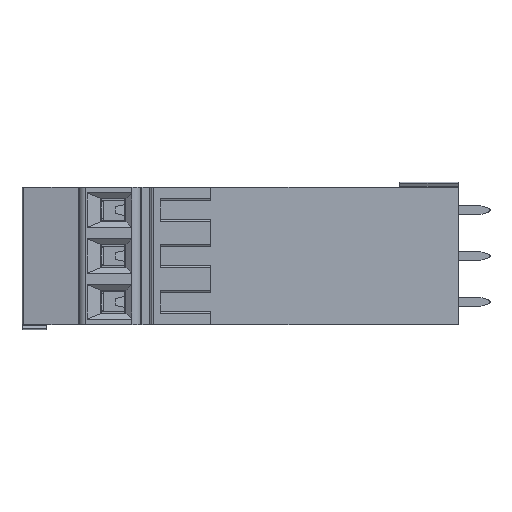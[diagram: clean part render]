
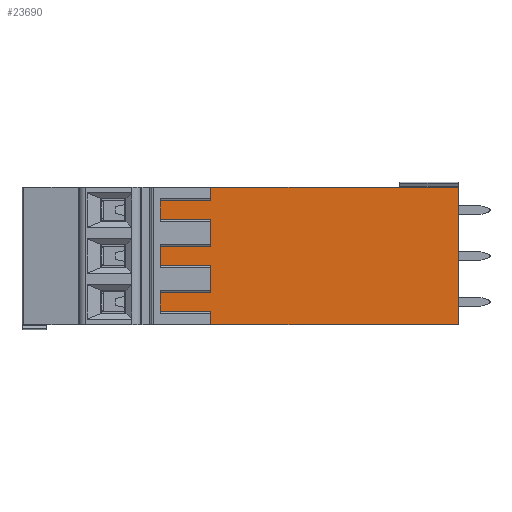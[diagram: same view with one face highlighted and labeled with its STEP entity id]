
A CAD part, left-side view. The second image highlights one B-rep face of the part: STEP entity #23690.
In plain terms, the highlighted planar face has unit normal (-1, 0, 0).
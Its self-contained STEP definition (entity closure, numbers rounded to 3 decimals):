
#1953=DIRECTION('',(0.,1.,0.));
#1954=VECTOR('',#1953,5.6);
#1955=CARTESIAN_POINT('',(1.,30.9,-5.655));
#1956=LINE('',#1955,#1954);
#1957=DIRECTION('',(0.,0.,-1.));
#1958=VECTOR('',#1957,1.165);
#1959=CARTESIAN_POINT('',(1.,30.9,-4.49));
#1960=LINE('',#1959,#1958);
#1961=DIRECTION('',(0.,1.,0.));
#1962=VECTOR('',#1961,27.4);
#1963=CARTESIAN_POINT('',(1.,3.5,-4.49));
#1964=LINE('',#1963,#1962);
#1965=DIRECTION('',(0.,0.,-1.));
#1966=VECTOR('',#1965,15.24);
#1967=CARTESIAN_POINT('',(1.,3.5,-4.49));
#1968=LINE('',#1967,#1966);
#1969=DIRECTION('',(0.,-1.,0.));
#1970=VECTOR('',#1969,27.4);
#1971=CARTESIAN_POINT('',(1.,30.9,-19.73));
#1972=LINE('',#1971,#1970);
#1986=DIRECTION('',(0.,0.,-1.));
#1987=VECTOR('',#1986,2.33);
#1988=CARTESIAN_POINT('',(1.,30.9,-8.405));
#1989=LINE('',#1988,#1987);
#13397=DIRECTION('',(0.,0.,1.));
#13398=VECTOR('',#13397,2.75);
#13399=CARTESIAN_POINT('',(1.,36.5,
-8.405));
#13400=LINE('',#13399,#13398);
#13413=DIRECTION('',(0.,1.,0.));
#13414=VECTOR('',#13413,5.6);
#13415=CARTESIAN_POINT('',(1.,30.9,
-8.405));
#13416=LINE('',#13415,#13414);
#13425=DIRECTION('',(0.,-1.,0.));
#13426=VECTOR('',#13425,5.6);
#13427=CARTESIAN_POINT('',(1.,36.5,-10.735));
#13428=LINE('',#13427,#13426);
#13447=DIRECTION('',(0.,0.,1.));
#13448=VECTOR('',#13447,2.75);
#13449=CARTESIAN_POINT('',(1.,36.5,
-13.485));
#13450=LINE('',#13449,#13448);
#13463=DIRECTION('',(0.,1.,0.));
#13464=VECTOR('',#13463,5.6);
#13465=CARTESIAN_POINT('',(1.,30.9,
-13.485));
#13466=LINE('',#13465,#13464);
#13480=DIRECTION('',(0.,0.,-1.));
#13481=VECTOR('',#13480,2.33);
#13482=CARTESIAN_POINT('',(1.,30.9,
-13.485));
#13483=LINE('',#13482,#13481);
#13493=DIRECTION('',(0.,-1.,0.));
#13494=VECTOR('',#13493,5.6);
#13495=CARTESIAN_POINT('',(1.,36.5,-15.815));
#13496=LINE('',#13495,#13494);
#13523=DIRECTION('',(0.,0.,1.));
#13524=VECTOR('',#13523,2.75);
#13525=CARTESIAN_POINT('',(1.,36.5,
-18.565));
#13526=LINE('',#13525,#13524);
#13539=DIRECTION('',(0.,1.,0.));
#13540=VECTOR('',#13539,5.6);
#13541=CARTESIAN_POINT('',(1.,30.9,
-18.565));
#13542=LINE('',#13541,#13540);
#13552=DIRECTION('',(0.,0.,1.));
#13553=VECTOR('',#13552,1.165);
#13554=CARTESIAN_POINT('',(1.,30.9,-19.73));
#13555=LINE('',#13554,#13553);
#18278=CARTESIAN_POINT('',(1.,30.9,-19.73));
#18279=VERTEX_POINT('',#18278);
#18280=CARTESIAN_POINT('',(1.,3.5,-19.73));
#18281=VERTEX_POINT('',#18280);
#18352=CARTESIAN_POINT('',(1.,30.9,
-18.565));
#18353=VERTEX_POINT('',#18352);
#18354=CARTESIAN_POINT('',(1.,36.5,
-18.565));
#18355=VERTEX_POINT('',#18354);
#18356=CARTESIAN_POINT('',(1.,36.5,-15.815));
#18357=VERTEX_POINT('',#18356);
#18358=CARTESIAN_POINT('',(1.,30.9,-15.815));
#18359=VERTEX_POINT('',#18358);
#19080=CARTESIAN_POINT('',(1.,30.9,
-13.485));
#19081=CARTESIAN_POINT('',(1.,36.5,
-13.485));
#19082=VERTEX_POINT('',#19080);
#19083=VERTEX_POINT('',#19081);
#19084=CARTESIAN_POINT('',(1.,36.5,-10.735));
#19085=VERTEX_POINT('',#19084);
#19086=CARTESIAN_POINT('',(1.,30.9,-10.735));
#19087=VERTEX_POINT('',#19086);
#19748=CARTESIAN_POINT('',(1.,3.5,-4.49));
#19750=VERTEX_POINT('',#19748);
#19839=CARTESIAN_POINT('',(1.,30.9,-4.49));
#19840=VERTEX_POINT('',#19839);
#20038=CARTESIAN_POINT('',(1.,30.9,-5.655));
#20040=VERTEX_POINT('',#20038);
#20041=CARTESIAN_POINT('',(1.,36.5,-5.655));
#20042=VERTEX_POINT('',#20041);
#20045=CARTESIAN_POINT('',(1.,30.9,
-8.405));
#20046=CARTESIAN_POINT('',(1.,36.5,
-8.405));
#20047=VERTEX_POINT('',#20045);
#20048=VERTEX_POINT('',#20046);
#23654=CARTESIAN_POINT('',(1.,3.5,-14.65));
#23655=DIRECTION('',(-1.,0.,0.));
#23656=DIRECTION('',(0.,1.,0.));
#23657=AXIS2_PLACEMENT_3D('',#23654,#23655,#23656);
#23658=PLANE('',#23657);
#23660=ORIENTED_EDGE('',*,*,#23659,.F.);
#23662=ORIENTED_EDGE('',*,*,#23661,.T.);
#23664=ORIENTED_EDGE('',*,*,#23663,.T.);
#23666=ORIENTED_EDGE('',*,*,#23665,.F.);
#23668=ORIENTED_EDGE('',*,*,#23667,.F.);
#23669=ORIENTED_EDGE('',*,*,#23237,.F.);
#23670=ORIENTED_EDGE('',*,*,#21109,.T.);
#23671=ORIENTED_EDGE('',*,*,#21046,.F.);
#23673=ORIENTED_EDGE('',*,*,#23672,.T.);
#23675=ORIENTED_EDGE('',*,*,#23674,.T.);
#23677=ORIENTED_EDGE('',*,*,#23676,.T.);
#23679=ORIENTED_EDGE('',*,*,#23678,.T.);
#23681=ORIENTED_EDGE('',*,*,#23680,.F.);
#23683=ORIENTED_EDGE('',*,*,#23682,.T.);
#23685=ORIENTED_EDGE('',*,*,#23684,.T.);
#23687=ORIENTED_EDGE('',*,*,#23686,.T.);
#23688=EDGE_LOOP('',(#23660,#23662,#23664,#23666,#23668,#23669,#23670,#23671,
#23673,#23675,#23677,#23679,#23681,#23683,#23685,#23687));
#23689=FACE_OUTER_BOUND('',#23688,.F.);
#23690=ADVANCED_FACE('',(#23689),#23658,.T.);
#21046=EDGE_CURVE('',#18279,#18281,#1972,.T.);
#21109=EDGE_CURVE('',#19750,#18281,#1968,.T.);
#23237=EDGE_CURVE('',#19750,#19840,#1964,.T.);
#23659=EDGE_CURVE('',#20047,#19087,#1989,.T.);
#23661=EDGE_CURVE('',#20047,#20048,#13416,.T.);
#23663=EDGE_CURVE('',#20048,#20042,#13400,.T.);
#23665=EDGE_CURVE('',#20040,#20042,#1956,.T.);
#23667=EDGE_CURVE('',#19840,#20040,#1960,.T.);
#23672=EDGE_CURVE('',#18279,#18353,#13555,.T.);
#23674=EDGE_CURVE('',#18353,#18355,#13542,.T.);
#23676=EDGE_CURVE('',#18355,#18357,#13526,.T.);
#23678=EDGE_CURVE('',#18357,#18359,#13496,.T.);
#23680=EDGE_CURVE('',#19082,#18359,#13483,.T.);
#23682=EDGE_CURVE('',#19082,#19083,#13466,.T.);
#23684=EDGE_CURVE('',#19083,#19085,#13450,.T.);
#23686=EDGE_CURVE('',#19085,#19087,#13428,.T.);
